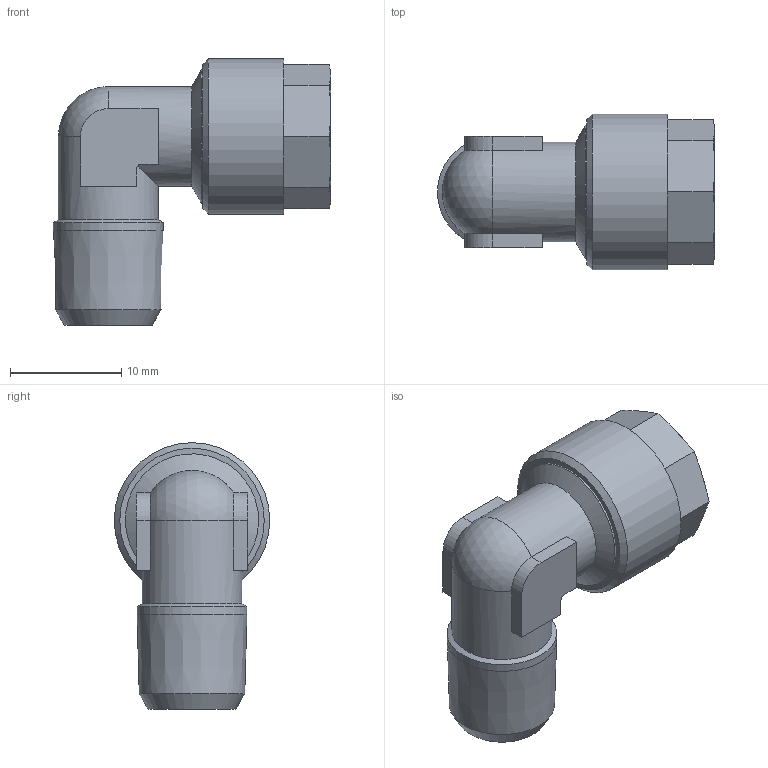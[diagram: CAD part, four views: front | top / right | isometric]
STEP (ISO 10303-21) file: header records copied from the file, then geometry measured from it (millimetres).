
FILE_DESCRIPTION(/* description */ (''),/* implementation_level */ '2;1');
FILE_NAME(/* name */ '11006_305_86_R18_18.07.17',/* time_stamp */ '2017-07-18T11:55:10+02:00',/* author */ (''),/* organization */ (''),/* preprocessor_version */ 'ST-DEVELOPER v16.5',/* originating_system */ 'HiCAD 2016 2102.2 Build 618',/* authorisation */ '');
FILE_SCHEMA (('AUTOMOTIVE_DESIGN { 1 0 10303 214 1 1 1 1 }'));
Length unit declared in the file: millimetre
Products named in the file (3): Root; 17006; R11006
Assembly tree (2 placements, depth 2):
  Root
    17006
    R11006
Bounding box: 24.94 x 14 x 24 mm (x, y, z)
Volume: 2556.2 mm3; surface area: 2865.7 mm2
Topology: 2 solids, 2 shells, 69 faces, 172 edges, 109 vertices
Faces by surface type: plane 29, cone 23, cylinder 15, torus 1, sphere 1
Full cylindrical faces by diameter (mm): 5 x1, 5.5 x1, 6 x1, 6.5 x1, 8 x1, 9 x2, 9.884 x1, 10.773 x1, 12 x1, 14 x1
Entity records: 4127 total; most frequent: CARTESIAN_POINT 1288, DIRECTION 334, PRESENTATION_STYLE_ASSIGNMENT 264, COLOUR_RGB 263, DRAUGHTING_PRE_DEFINED_CURVE_FONT 262, CURVE_STYLE 262, OVER_RIDING_STYLED_ITEM 262, ORIENTED_EDGE 262
